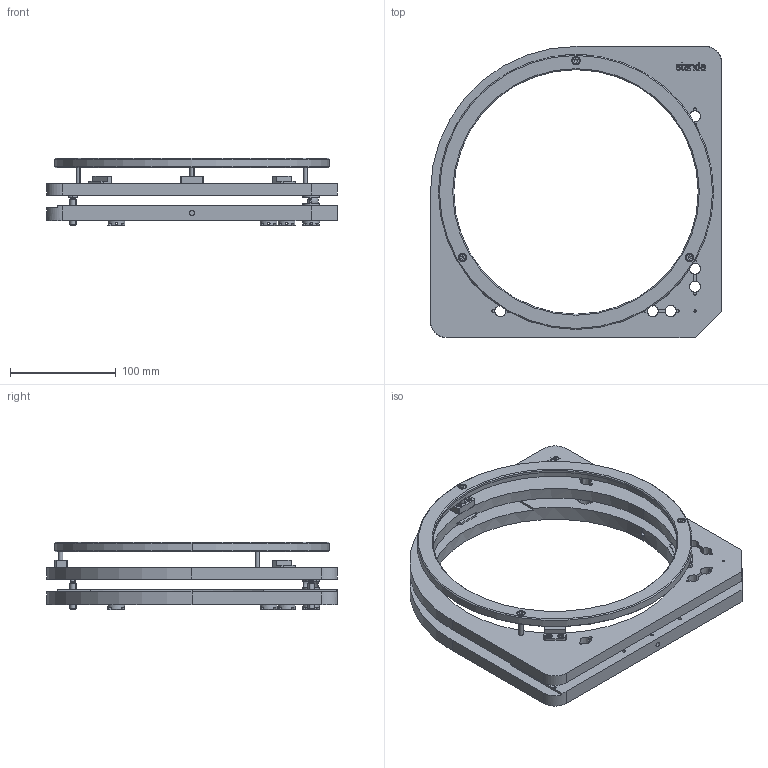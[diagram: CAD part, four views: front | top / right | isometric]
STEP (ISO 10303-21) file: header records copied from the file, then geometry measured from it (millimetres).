
FILE_DESCRIPTION((''),'2;1');
FILE_NAME('5LAM126-235-H SB.stp','2017-10-11T10:58:25',(''),(''),'Mechanical Desktop 2011','Mechanical Desktop 2011',', , ');
FILE_SCHEMA(('CONFIG_CONTROL_DESIGN'));
Length unit declared in the file: millimetre
Products named in the file (1): Product
Bounding box: 275 x 275 x 64 mm (x, y, z)
Volume: 733739.9 mm3; surface area: 210616.8 mm2
Topology: 1 solids, 15 shells, 1689 faces, 4675 edges, 3046 vertices
Faces by surface type: plane 760, cylinder 400, bspline 331, cone 150, torus 34, sphere 14
Entity records: 59207 total; most frequent: CARTESIAN_POINT 17339, ORIENTED_EDGE 9242, DIRECTION 8482, EDGE_CURVE 4621, AXIS2_PLACEMENT_3D 3215, VERTEX_POINT 3046, VECTOR 2052, LINE 2052
